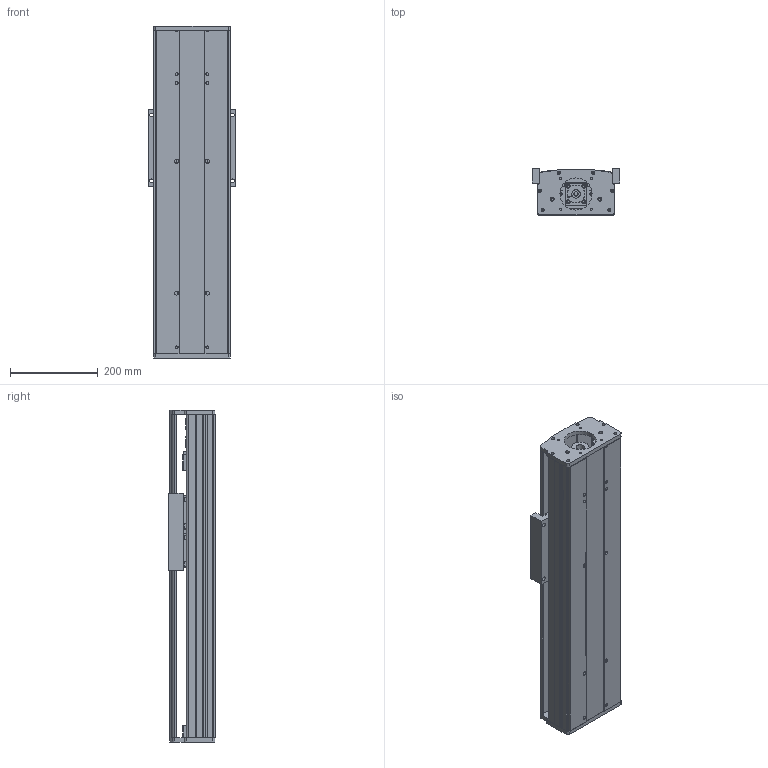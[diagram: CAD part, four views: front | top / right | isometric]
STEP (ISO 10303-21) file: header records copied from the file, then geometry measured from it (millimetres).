
FILE_DESCRIPTION (( 'STEP AP203' ), '1' );
FILE_NAME ('CF175-1-P400.STEP', '2016-02-23T06:58:59', ( 'Sky123.Org' ), ( 'Sky123.Org' ), 'SwSTEP 2.0', 'SolidWorks 2015', '' );
FILE_SCHEMA (( 'CONFIG_CONTROL_DESIGN' ));
Length unit declared in the file: millimetre
Products named in the file (23): CF175-1175臏倰第; BF; CF-HGH20CA賑輸; 1; deep groove ball bearings gb_Rolling bearings 6004 GB 276-94; 175賑雄啣; 蝶菜; BF20蚾饜极1; BK20; 40-66; cf175-SFS2525蹟譫釱; 綴杶; HGR20絳寢-1140; SFU2510-BK20+BF20; ヶ杶; SFU2510-4; 175-1-86祭輛萇儂釱; 粣創裔; CF175-1-P400; 175-1耜啣; angular contact ball bearings gb_Rolling bearings S7004 GB 292-94; CF175-1175裔啣; BK20蚾饜极1
Assembly tree (28 placements, depth 3):
  CF175-1-P400
    CF-HGH20CA賑輸  x4
    175賑雄啣
    BK20蚾饜极1
      BK20
      綴杶
      ヶ杶
      粣創裔
      angular contact ball bearings gb_Rolling bearings S7004 GB 292-94  x2
    BF20蚾饜极1
      BF
      deep groove ball bearings gb_Rolling bearings 6004 GB 276-94
    cf175-SFS2525蹟譫釱
    SFU2510-BK20+BF20
    175-1-86祭輛萇儂釱
    175-1耜啣
    CF175-1175裔啣
    CF175-1175臏倰第
    40-66
      1  x2
      蝶菜
    HGR20絳寢-1140  x2
    SFU2510-4
Bounding box: 200 x 107.5 x 755 mm (x, y, z)
Volume: 6325095.2 mm3; surface area: 1688549 mm2
Topology: 29 solids, 29 shells, 1666 faces, 5156 edges, 3438 vertices
Faces by surface type: cylinder 698, plane 682, torus 168, sphere 96, cone 20, bspline 2
Entity records: 51490 total; most frequent: CARTESIAN_POINT 16279, ORIENTED_EDGE 7028, DIRECTION 6709, EDGE_CURVE 3514, AXIS2_PLACEMENT_3D 2588, VERTEX_POINT 2341, VECTOR 1533, LINE 1533
